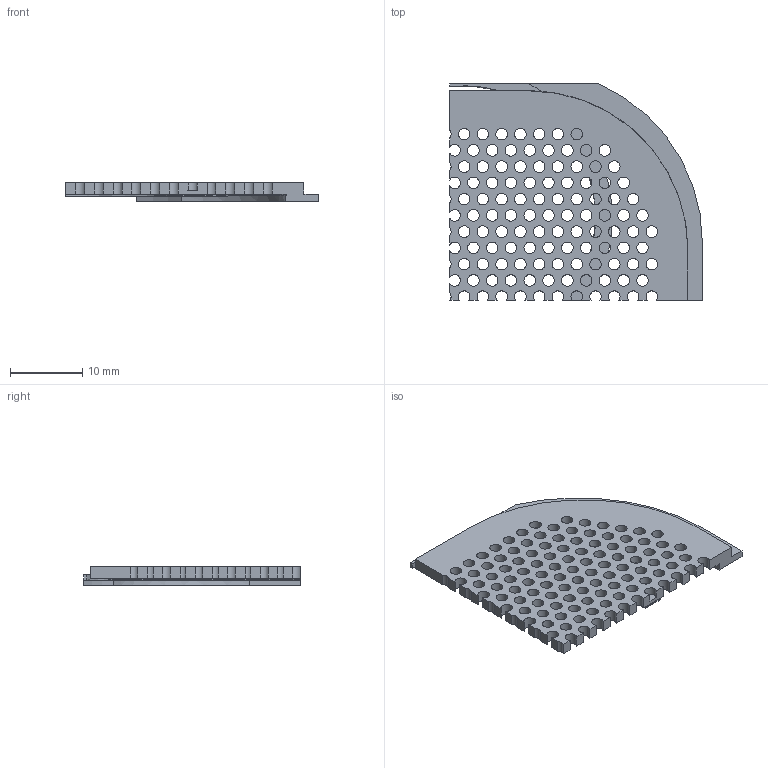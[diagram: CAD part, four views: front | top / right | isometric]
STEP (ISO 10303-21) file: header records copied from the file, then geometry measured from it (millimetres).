
FILE_DESCRIPTION(('Open CASCADE Model'),'2;1');
FILE_NAME('Open CASCADE Shape Model','2026-09-06T11:28:58',('Author'),( 'Open CASCADE'),'Open CASCADE STEP processor 7.7','Open CASCADE 7.7' ,'Unknown');
FILE_SCHEMA(('AUTOMOTIVE_DESIGN { 1 0 10303 214 1 1 1 1 }'));
Length unit declared in the file: millimetre
Products named in the file (1): Open CASCADE STEP translator 7.7 3
Bounding box: 35 x 30 x 2.6 mm (x, y, z)
Volume: 1229.4 mm3; surface area: 2761.5 mm2
Topology: 1 solids, 1 shells, 187 faces, 537 edges, 358 vertices
Faces by surface type: cylinder 134, plane 53
Full cylindrical faces by diameter (mm): 1.6 x95
Entity records: 14414 total; most frequent: CARTESIAN_POINT 3873, DIRECTION 1951, ORIENTED_EDGE 1074, PCURVE 1074, DEFINITIONAL_REPRESENTATION 1074, LINE 983, VECTOR 983, EDGE_CURVE 537
